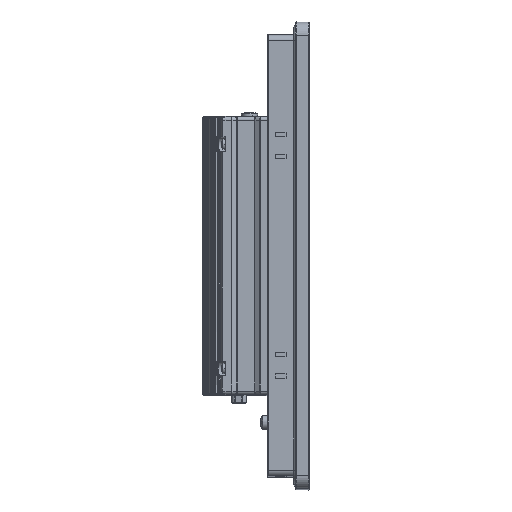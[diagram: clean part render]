
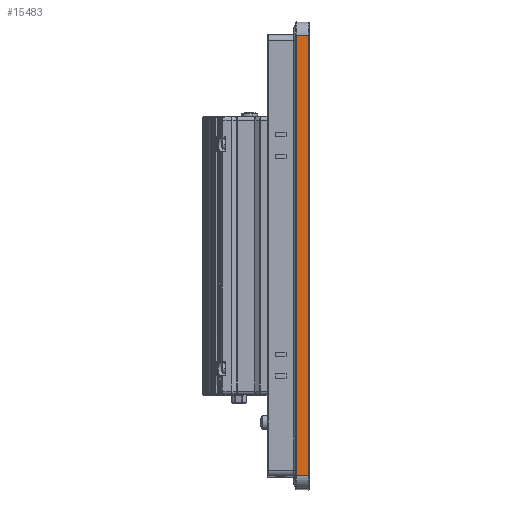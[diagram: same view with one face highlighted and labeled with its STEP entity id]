
A CAD part, top view. The second image highlights one B-rep face of the part: STEP entity #15483.
In plain terms, the highlighted planar face has unit normal (0, 0, 1).
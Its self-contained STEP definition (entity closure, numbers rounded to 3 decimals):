
#3329=DIRECTION('',(0.,-1.,0.));
#3330=VECTOR('',#3329,240.5);
#3331=CARTESIAN_POINT('',(17.5,120.25,198.5));
#3332=LINE('',#3331,#3330);
#3421=DIRECTION('',(1.,0.,0.));
#3422=VECTOR('',#3421,6.9);
#3423=CARTESIAN_POINT('',(17.5,-120.25,198.5));
#3424=LINE('',#3423,#3422);
#3545=DIRECTION('',(0.,1.,0.));
#3546=VECTOR('',#3545,240.5);
#3547=CARTESIAN_POINT('',(24.4,-120.25,198.5));
#3548=LINE('',#3547,#3546);
#3549=DIRECTION('',(-1.,0.,0.));
#3550=VECTOR('',#3549,6.9);
#3551=CARTESIAN_POINT('',(24.4,120.25,198.5));
#3552=LINE('',#3551,#3550);
#9484=CARTESIAN_POINT('',(24.4,120.25,198.5));
#9485=VERTEX_POINT('',#9484);
#9486=CARTESIAN_POINT('',(24.4,-120.25,198.5));
#9487=VERTEX_POINT('',#9486);
#9502=CARTESIAN_POINT('',(17.5,120.25,198.5));
#9503=VERTEX_POINT('',#9502);
#9504=CARTESIAN_POINT('',(17.5,-120.25,198.5));
#9505=VERTEX_POINT('',#9504);
#15471=CARTESIAN_POINT('',(20.95,0.,198.5));
#15472=DIRECTION('',(0.,0.,1.));
#15473=DIRECTION('',(0.,-1.,0.));
#15474=AXIS2_PLACEMENT_3D('',#15471,#15472,#15473);
#15475=PLANE('',#15474);
#15476=ORIENTED_EDGE('',*,*,#15458,.F.);
#15477=ORIENTED_EDGE('',*,*,#15263,.F.);
#15478=ORIENTED_EDGE('',*,*,#15093,.F.);
#15480=ORIENTED_EDGE('',*,*,#15479,.F.);
#15481=EDGE_LOOP('',(#15476,#15477,#15478,#15480));
#15482=FACE_OUTER_BOUND('',#15481,.F.);
#15483=ADVANCED_FACE('',(#15482),#15475,.T.);
#15093=EDGE_CURVE('',#9503,#9505,#3332,.T.);
#15263=EDGE_CURVE('',#9505,#9487,#3424,.T.);
#15458=EDGE_CURVE('',#9487,#9485,#3548,.T.);
#15479=EDGE_CURVE('',#9485,#9503,#3552,.T.);
